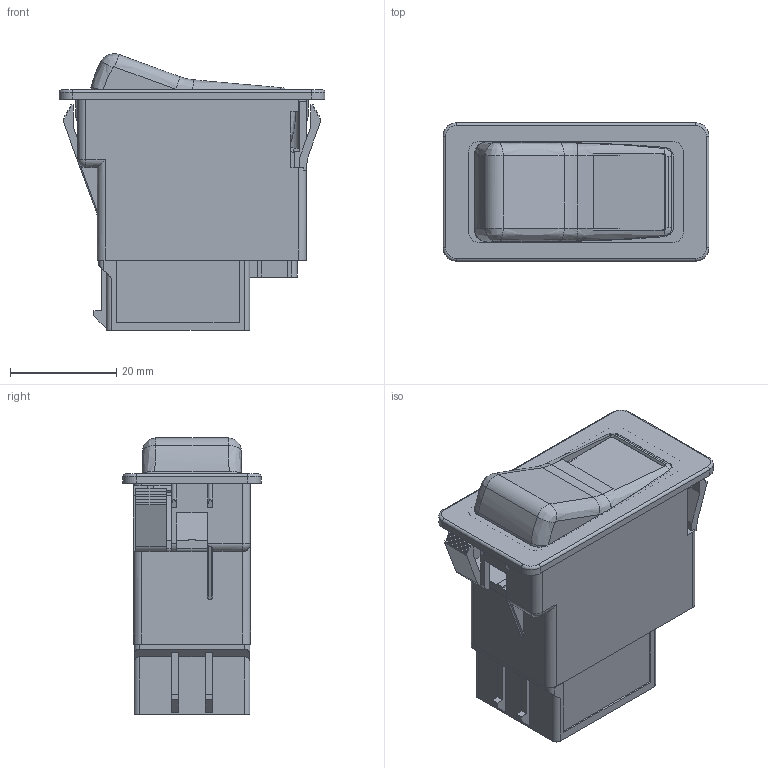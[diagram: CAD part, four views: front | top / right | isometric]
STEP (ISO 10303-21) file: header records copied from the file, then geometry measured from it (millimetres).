
FILE_DESCRIPTION(('CATIA V5 STEP Exchange','CAx-IF Rec.Pracs.--- Model Styling and Organization---1.5--- 2016-08-15','CAx-IF Rec.Pracs.---Supplemental Geometry---1.0---2011-11-01','CAx-IF Rec.Pracs.--- Composite Materials ---1.1---2010-07-15'),'2;1');
FILE_NAME('E:\tmp\ddx\2011226\HELLA_3D_data_Rocker_switches_series 4100_on_off_6FH-168-129-00.stp','2022-01-18T07:35:01+00:00',('none'),('none'),'CATIA Version 5-6 Release 2020 SP3 HF9','CATIA V5 STEP AP214 Edition 3 v2','none');
FILE_SCHEMA(('AUTOMOTIVE_DESIGN { 1 0 10303 214 3 1 1 1 }'));
Length unit declared in the file: millimetre
Products named in the file (1): 10000870367_D10_001
Bounding box: 50 x 26 x 51.99 mm (x, y, z)
Volume: 13954.6 mm3; surface area: 24346 mm2
Topology: 1 solids, 1 shells, 925 faces, 2561 edges, 1622 vertices
Faces by surface type: plane 611, cylinder 223, bspline 40, sphere 31, torus 14, cone 4, revolution 2
Entity records: 31752 total; most frequent: CARTESIAN_POINT 9272, ORIENTED_EDGE 5114, DIRECTION 3920, EDGE_CURVE 2557, VECTOR 1947, LINE 1947, VERTEX_POINT 1622, AXIS2_PLACEMENT_3D 1088
